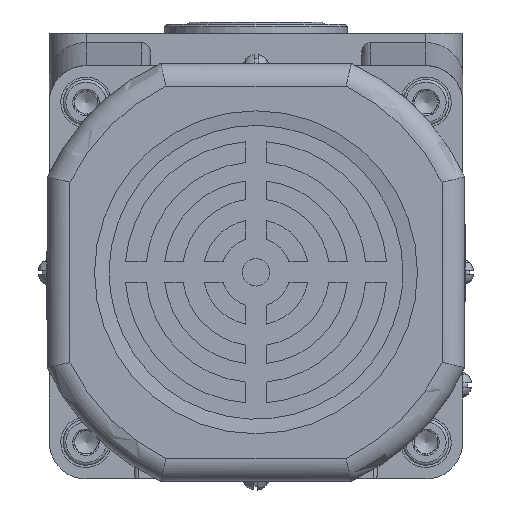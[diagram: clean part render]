
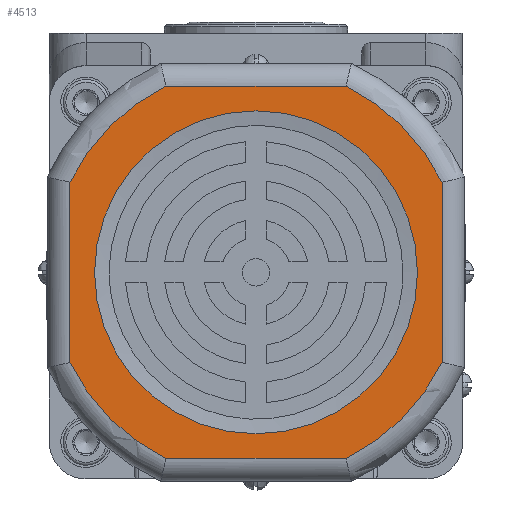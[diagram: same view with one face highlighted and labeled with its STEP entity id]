
A CAD part, front view. The second image highlights one B-rep face of the part: STEP entity #4513.
In plain terms, the highlighted planar face has unit normal (0, -1, 0).
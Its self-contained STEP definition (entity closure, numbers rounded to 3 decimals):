
#1246=LINE('',#21349,#2054);
#1248=LINE('',#21352,#2056);
#1250=LINE('',#21355,#2058);
#1253=LINE('',#21359,#2061);
#2054=VECTOR('',#17066,1.);
#2056=VECTOR('',#17070,1.);
#2058=VECTOR('',#17074,1.);
#2061=VECTOR('',#17079,1.);
#4513=ADVANCED_FACE('',(#5377,#5378),#4985,.F.);
#4985=PLANE('',#14197);
#5377=FACE_BOUND('',#6146,.T.);
#5378=FACE_BOUND('',#6147,.T.);
#6146=EDGE_LOOP('',(#8696,#8697,#8698,#8699,#8700,#8701,#8702,#8703));
#6147=EDGE_LOOP('',(#8704));
#8696=ORIENTED_EDGE('',*,*,#11842,.T.);
#8697=ORIENTED_EDGE('',*,*,#11832,.T.);
#8698=ORIENTED_EDGE('',*,*,#11839,.T.);
#8699=ORIENTED_EDGE('',*,*,#11828,.T.);
#8700=ORIENTED_EDGE('',*,*,#11837,.T.);
#8701=ORIENTED_EDGE('',*,*,#11824,.T.);
#8702=ORIENTED_EDGE('',*,*,#11835,.T.);
#8703=ORIENTED_EDGE('',*,*,#11820,.T.);
#8704=ORIENTED_EDGE('',*,*,#11880,.F.);
#10376=VERTEX_POINT('',#21237);
#10378=VERTEX_POINT('',#21240);
#10380=VERTEX_POINT('',#21268);
#10382=VERTEX_POINT('',#21271);
#10384=VERTEX_POINT('',#21299);
#10386=VERTEX_POINT('',#21302);
#10388=VERTEX_POINT('',#21330);
#10390=VERTEX_POINT('',#21333);
#10417=VERTEX_POINT('',#21635);
#11820=EDGE_CURVE('',#10378,#10376,#12834,.T.);
#11824=EDGE_CURVE('',#10382,#10380,#12836,.T.);
#11828=EDGE_CURVE('',#10386,#10384,#12838,.T.);
#11832=EDGE_CURVE('',#10390,#10388,#12840,.T.);
#11835=EDGE_CURVE('',#10380,#10378,#1246,.T.);
#11837=EDGE_CURVE('',#10384,#10382,#1248,.T.);
#11839=EDGE_CURVE('',#10388,#10386,#1250,.T.);
#11842=EDGE_CURVE('',#10376,#10390,#1253,.T.);
#11880=EDGE_CURVE('',#10417,#10417,#12842,.T.);
#12834=CIRCLE('',#14167,45.);
#12836=CIRCLE('',#14170,45.);
#12838=CIRCLE('',#14173,45.);
#12840=CIRCLE('',#14176,45.);
#12842=CIRCLE('',#14196,35.157);
#14167=AXIS2_PLACEMENT_3D('',#21239,#17042,#17043);
#14170=AXIS2_PLACEMENT_3D('',#21270,#17048,#17049);
#14173=AXIS2_PLACEMENT_3D('',#21301,#17054,#17055);
#14176=AXIS2_PLACEMENT_3D('',#21332,#17060,#17061);
#14196=AXIS2_PLACEMENT_3D('',#21634,#17132,#17133);
#14197=AXIS2_PLACEMENT_3D('',#21636,#17134,#17135);
#17042=DIRECTION('',(0.,-1.,0.));
#17043=DIRECTION('',(-1.,0.,0.));
#17048=DIRECTION('',(0.,-1.,0.));
#17049=DIRECTION('',(-1.,0.,0.));
#17054=DIRECTION('',(0.,-1.,0.));
#17055=DIRECTION('',(-1.,0.,0.));
#17060=DIRECTION('',(0.,-1.,0.));
#17061=DIRECTION('',(-1.,0.,0.));
#17066=DIRECTION('',(0.,0.,1.));
#17070=DIRECTION('',(1.,0.,0.));
#17074=DIRECTION('',(0.,0.,-1.));
#17079=DIRECTION('',(-1.,0.,0.));
#17132=DIRECTION('',(0.,-1.,0.));
#17133=DIRECTION('',(1.,0.,0.));
#17134=DIRECTION('',(0.,1.,0.));
#17135=DIRECTION('',(-1.,0.,0.));
#21237=CARTESIAN_POINT('',(19.615,-230.,-11.5));
#21239=CARTESIAN_POINT('',(0.,-230.,-52.));
#21240=CARTESIAN_POINT('',(40.5,-230.,-32.385));
#21268=CARTESIAN_POINT('',(40.5,-230.,-71.615));
#21270=CARTESIAN_POINT('',(0.,-230.,-52.));
#21271=CARTESIAN_POINT('',(19.615,-230.,-92.5));
#21299=CARTESIAN_POINT('',(-19.615,-230.,-92.5));
#21301=CARTESIAN_POINT('',(0.,-230.,-52.));
#21302=CARTESIAN_POINT('',(-40.5,-230.,-71.615));
#21330=CARTESIAN_POINT('',(-40.5,-230.,-32.385));
#21332=CARTESIAN_POINT('',(0.,-230.,-52.));
#21333=CARTESIAN_POINT('',(-19.615,-230.,-11.5));
#21349=CARTESIAN_POINT('',(40.5,-230.,-6.543));
#21352=CARTESIAN_POINT('',(0.,-230.,-92.5));
#21355=CARTESIAN_POINT('',(-40.5,-230.,-6.543));
#21359=CARTESIAN_POINT('',(0.,-230.,-11.5));
#21634=CARTESIAN_POINT('',(0.,-230.,-52.));
#21635=CARTESIAN_POINT('',(35.157,-230.,-52.));
#21636=CARTESIAN_POINT('',(0.,-230.,-6.543));
